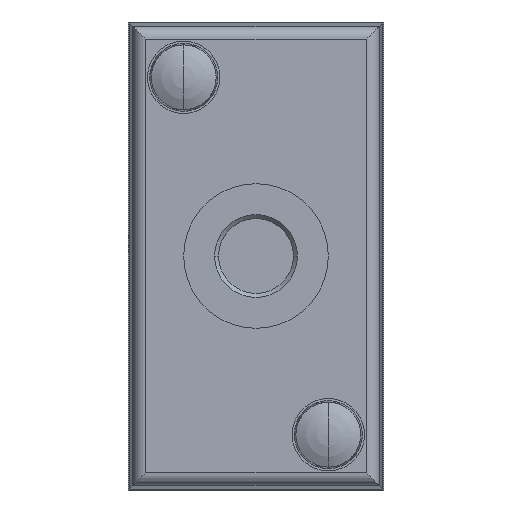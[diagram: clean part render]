
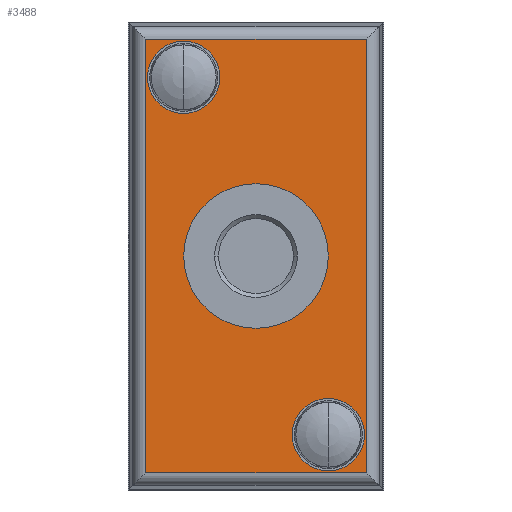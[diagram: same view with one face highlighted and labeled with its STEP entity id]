
A CAD part, front view. The second image highlights one B-rep face of the part: STEP entity #3488.
In plain terms, the highlighted planar face has unit normal (0, -1, 0).
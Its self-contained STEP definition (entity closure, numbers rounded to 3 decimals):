
#1164=CARTESIAN_POINT('',(0.,-50.5,-27.5));
#1165=DIRECTION('',(0.,1.,0.));
#1166=DIRECTION('',(1.,0.,0.));
#1167=AXIS2_PLACEMENT_3D('',#1164,#1165,#1166);
#1169=CARTESIAN_POINT('',(0.,-50.5,-27.5));
#1170=DIRECTION('',(0.,1.,0.));
#1171=DIRECTION('',(-1.,0.,0.));
#1172=AXIS2_PLACEMENT_3D('',#1169,#1170,#1171);
#1174=CARTESIAN_POINT('',(8.5,-50.5,-48.5));
#1175=DIRECTION('',(0.,1.,0.));
#1176=DIRECTION('',(0.,0.,-1.));
#1177=AXIS2_PLACEMENT_3D('',#1174,#1175,#1176);
#1179=CARTESIAN_POINT('',(8.5,-50.5,-48.5));
#1180=DIRECTION('',(0.,1.,0.));
#1181=DIRECTION('',(0.,0.,1.));
#1182=AXIS2_PLACEMENT_3D('',#1179,#1180,#1181);
#1184=CARTESIAN_POINT('',(-8.5,-50.5,-6.5));
#1185=DIRECTION('',(0.,1.,0.));
#1186=DIRECTION('',(0.,0.,-1.));
#1187=AXIS2_PLACEMENT_3D('',#1184,#1185,#1186);
#1189=CARTESIAN_POINT('',(-8.5,-50.5,-6.5));
#1190=DIRECTION('',(0.,1.,0.));
#1191=DIRECTION('',(0.,0.,1.));
#1192=AXIS2_PLACEMENT_3D('',#1189,#1190,#1191);
#1194=DIRECTION('',(0.,0.,1.));
#1195=VECTOR('',#1194,50.957);
#1196=CARTESIAN_POINT('',(12.979,-50.5,-52.979));
#1197=LINE('',#1196,#1195);
#1198=DIRECTION('',(1.,0.,0.));
#1199=VECTOR('',#1198,25.957);
#1200=CARTESIAN_POINT('',(-12.979,-50.5,-52.979));
#1201=LINE('',#1200,#1199);
#1202=DIRECTION('',(0.,0.,-1.));
#1203=VECTOR('',#1202,50.957);
#1204=CARTESIAN_POINT('',(-12.979,-50.5,-2.021));
#1205=LINE('',#1204,#1203);
#1206=DIRECTION('',(-1.,0.,0.));
#1207=VECTOR('',#1206,25.957);
#1208=CARTESIAN_POINT('',(12.979,-50.5,-2.021));
#1209=LINE('',#1208,#1207);
#1566=CARTESIAN_POINT('',(12.979,-50.5,-52.979));
#1567=CARTESIAN_POINT('',(12.979,-50.5,-2.021));
#1568=VERTEX_POINT('',#1566);
#1569=VERTEX_POINT('',#1567);
#1572=CARTESIAN_POINT('',(-12.979,-50.5,-2.021));
#1573=VERTEX_POINT('',#1572);
#1574=CARTESIAN_POINT('',(-12.979,-50.5,-52.979));
#1575=VERTEX_POINT('',#1574);
#1594=CARTESIAN_POINT('',(8.5,-50.5,-27.5));
#1595=CARTESIAN_POINT('',(-8.5,-50.5,-27.5));
#1596=VERTEX_POINT('',#1594);
#1597=VERTEX_POINT('',#1595);
#1612=CARTESIAN_POINT('',(8.5,-50.5,-52.75));
#1613=CARTESIAN_POINT('',(8.5,-50.5,-44.25));
#1614=VERTEX_POINT('',#1612);
#1615=VERTEX_POINT('',#1613);
#1630=CARTESIAN_POINT('',(-8.5,-50.5,-10.75));
#1631=CARTESIAN_POINT('',(-8.5,-50.5,-2.25));
#1632=VERTEX_POINT('',#1630);
#1633=VERTEX_POINT('',#1631);
#3457=CARTESIAN_POINT('',(0.,-50.5,0.));
#3458=DIRECTION('',(0.,-1.,0.));
#3459=DIRECTION('',(1.,0.,0.));
#3460=AXIS2_PLACEMENT_3D('',#3457,#3458,#3459);
#3461=PLANE('',#3460);
#3463=ORIENTED_EDGE('',*,*,#3462,.F.);
#3464=ORIENTED_EDGE('',*,*,#3435,.F.);
#3465=ORIENTED_EDGE('',*,*,#3447,.F.);
#3467=ORIENTED_EDGE('',*,*,#3466,.F.);
#3468=EDGE_LOOP('',(#3463,#3464,#3465,#3467));
#3469=FACE_OUTER_BOUND('',#3468,.F.);
#3471=ORIENTED_EDGE('',*,*,#3470,.F.);
#3473=ORIENTED_EDGE('',*,*,#3472,.F.);
#3474=EDGE_LOOP('',(#3471,#3473));
#3475=FACE_BOUND('',#3474,.F.);
#3477=ORIENTED_EDGE('',*,*,#3476,.F.);
#3479=ORIENTED_EDGE('',*,*,#3478,.F.);
#3480=EDGE_LOOP('',(#3477,#3479));
#3481=FACE_BOUND('',#3480,.F.);
#3483=ORIENTED_EDGE('',*,*,#3482,.F.);
#3485=ORIENTED_EDGE('',*,*,#3484,.F.);
#3486=EDGE_LOOP('',(#3483,#3485));
#3487=FACE_BOUND('',#3486,.F.);
#3488=ADVANCED_FACE('',(#3469,#3475,#3481,#3487),#3461,.T.);
#1168=CIRCLE('',#1167,8.5);
#1173=CIRCLE('',#1172,8.5);
#1178=CIRCLE('',#1177,4.25);
#1183=CIRCLE('',#1182,4.25);
#1188=CIRCLE('',#1187,4.25);
#1193=CIRCLE('',#1192,4.25);
#3435=EDGE_CURVE('',#1575,#1568,#1201,.T.);
#3447=EDGE_CURVE('',#1573,#1575,#1205,.T.);
#3462=EDGE_CURVE('',#1568,#1569,#1197,.T.);
#3466=EDGE_CURVE('',#1569,#1573,#1209,.T.);
#3470=EDGE_CURVE('',#1614,#1615,#1178,.T.);
#3472=EDGE_CURVE('',#1615,#1614,#1183,.T.);
#3476=EDGE_CURVE('',#1632,#1633,#1188,.T.);
#3478=EDGE_CURVE('',#1633,#1632,#1193,.T.);
#3482=EDGE_CURVE('',#1596,#1597,#1168,.T.);
#3484=EDGE_CURVE('',#1597,#1596,#1173,.T.);
